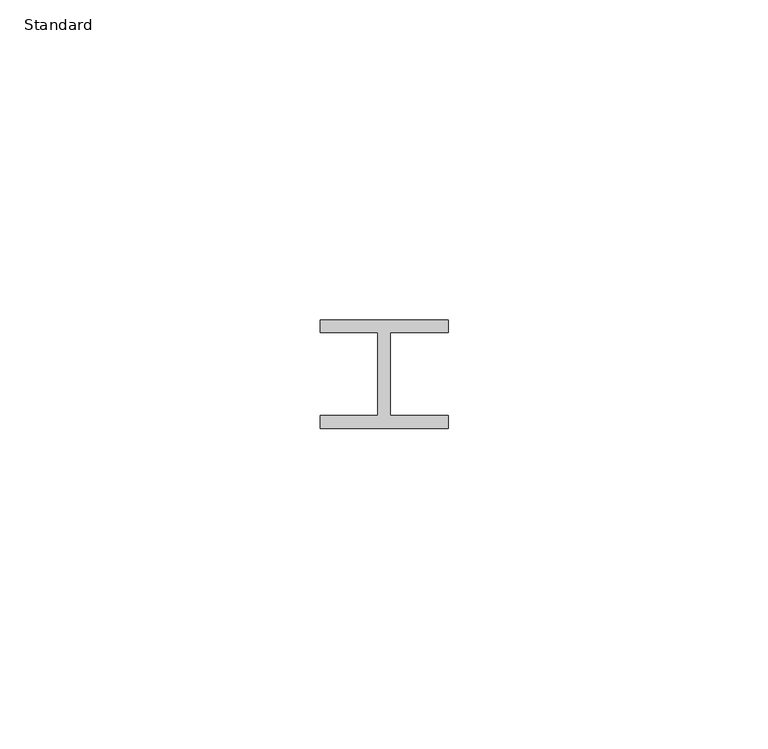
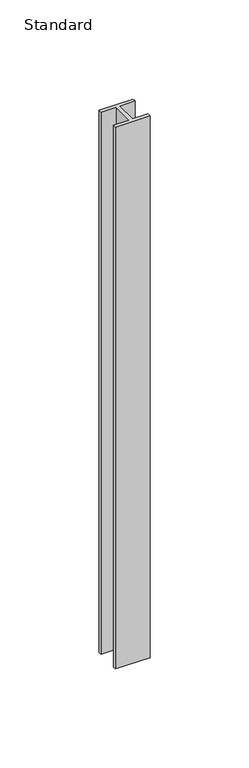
"""IFC4 building model written with IfcOpenShell, lengths in millimetres: furniture geometry, X_Partition-Channel-Duracube-Join : Standard."""

from ifc_helpers import new_model, si_unit, frame, origin, place, context, project, spatial, polyline, outline, extrude, source, transform, mapped, element, save


def standard_2b3127c3(model_context):
    return source(origin(), model_context, "Body", "SweptSolid", [
        extrude(outline(polyline([(45.7003264, -13.0), (54.7003264, -13.0), (54.7003264, -15.0), (34.7003264, -15.0), (34.7003264, -13.0), (43.7003264, -13.0), (43.7003264, 0.0), (34.7003264, 0.0), (34.7003264, 2.0), (54.7003264, 2.0), (54.7003264, 0.0), (45.7003264, 0.0), (45.7003264, -13.0)])), frame((0.0, 0.0, 2066.0), z_axis=(0.0, 0.0, 1.0), x_axis=(1.0, 0.0, 0.0)), (0.0, 0.0, 1.0), 334.0),
    ])


if __name__ == "__main__":
    model = new_model("IFC4")
    model_context = context("Model", 3, world=origin())
    ifc_project = project(units=[si_unit("LENGTHUNIT", "METRE", prefix="MILLI")], contexts=[model_context])
    site = spatial("IfcSite", under=ifc_project)
    building = spatial("IfcBuilding", under=site)
    placement = place(None, origin())
    standard_shape = standard_2b3127c3(model_context)
    element("IfcFurniture", 1, ObjectType="X_Partition-Channel-Duracube-Join : Standard", at=placement, inside=building, context=model_context, shape_type="MappedRepresentation", body=[
        mapped(standard_shape, transform((0.0, 0.0, 0.0), x_axis=(1.0, 0.0, 0.0), y_axis=(0.0, 1.0, 0.0), z_axis=(0.0, 0.0, 1.0))),
    ])
    save(model, "model.ifc")
